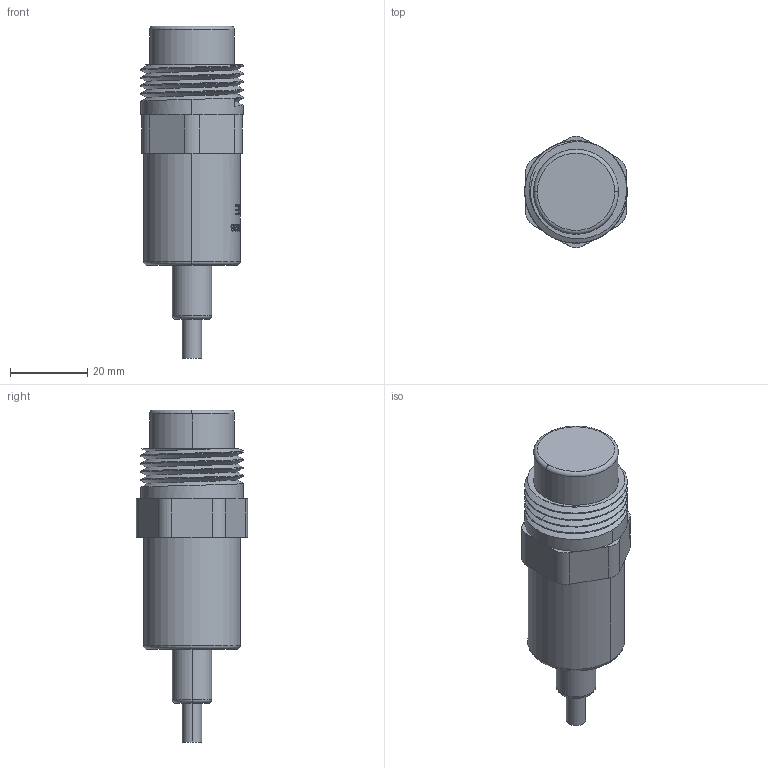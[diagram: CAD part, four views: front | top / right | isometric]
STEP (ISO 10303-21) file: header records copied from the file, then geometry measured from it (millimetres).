
FILE_DESCRIPTION((''),'2;1');
FILE_NAME('M26','2025-12-24T16:13:48',('28740194'),(''),'CREO PARAMETRIC BY PTC INC, 2024063','CREO PARAMETRIC BY PTC INC, 2024063','');
FILE_SCHEMA(('CONFIG_CONTROL_DESIGN'));
Length unit declared in the file: millimetre
Products named in the file (1): M26
Bounding box: 26.55 x 28.82 x 86 mm (x, y, z)
Volume: 31823 mm3; surface area: 7195.5 mm2
Topology: 1 solids, 1 shells, 455 faces, 1270 edges, 840 vertices
Faces by surface type: bspline 382, cylinder 42, plane 25, torus 6
Entity records: 20970 total; most frequent: CARTESIAN_POINT 11904, ORIENTED_EDGE 2540, EDGE_CURVE 1270, B_SPLINE_CURVE_WITH_KNOTS 861, VERTEX_POINT 840, DIRECTION 752, EDGE_LOOP 478, FACE_OUTER_BOUND 455
